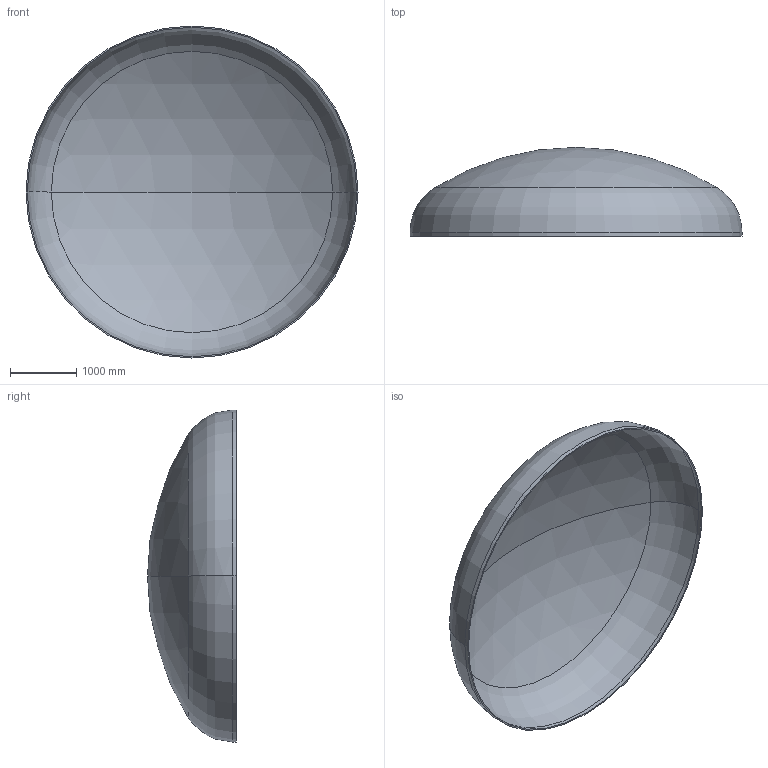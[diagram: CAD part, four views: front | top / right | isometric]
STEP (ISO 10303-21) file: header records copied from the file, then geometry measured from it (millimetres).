
FILE_DESCRIPTION (( 'STEP AP203' ), '1' );
FILE_NAME ('DIN 28013 Korbbogenform_-_Boden DIN 28013 - 5000 x 60 - I - s=19.step', '2016-07-02T00:10:53', ( '' ), ( '' ), 'SwSTEP 2.0', 'SolidWorks 2013', '' );
FILE_SCHEMA (( 'CONFIG_CONTROL_DESIGN' ));
Length unit declared in the file: millimetre
Products named in the file (1): DIN 28013 Korbbogenform_-_Boden DIN 28013 - 5000 x 60 - I - s=19
Bounding box: 5000 x 1339.41 x 5000 mm (x, y, z)
Volume: 531966469.5 mm3; surface area: 56294521.2 mm2
Topology: 1 solids, 1 shells, 13 faces, 24 edges, 14 vertices
Faces by surface type: torus 4, cylinder 4, sphere 4, plane 1
Entity records: 407 total; most frequent: DIRECTION 72, CARTESIAN_POINT 52, ORIENTED_EDGE 48, AXIS2_PLACEMENT_3D 34, EDGE_CURVE 24, CIRCLE 20, EDGE_LOOP 14, VERTEX_POINT 14
